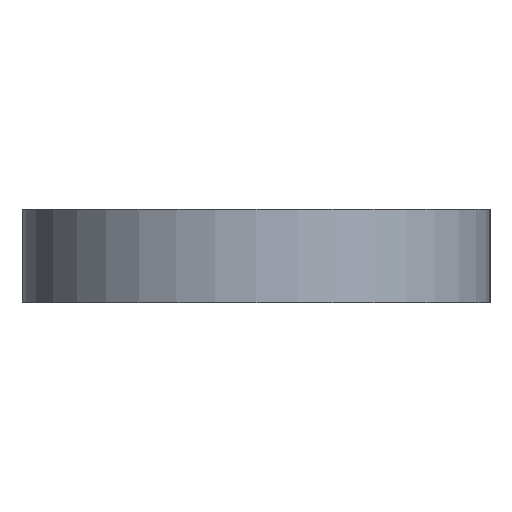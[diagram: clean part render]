
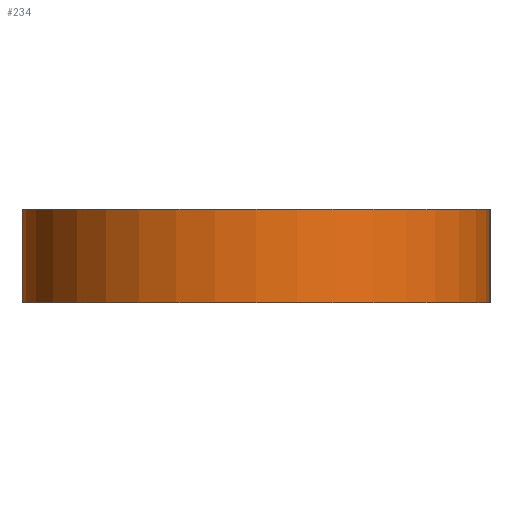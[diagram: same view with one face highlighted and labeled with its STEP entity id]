
A CAD part, front view. The second image highlights one B-rep face of the part: STEP entity #234.
In plain terms, the highlighted cylindrical face has radius 7.5 mm (diameter 15 mm), a partial arc.
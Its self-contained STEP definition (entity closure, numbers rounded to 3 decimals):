
#55 = PLANE('',#56);
#56 = AXIS2_PLACEMENT_3D('',#57,#58,#59);
#57 = CARTESIAN_POINT('',(0.,0.,0.));
#58 = DIRECTION('',(1.,0.,-0.));
#59 = DIRECTION('',(0.,-1.,0.));
#84 = PLANE('',#85);
#85 = AXIS2_PLACEMENT_3D('',#86,#87,#88);
#86 = CARTESIAN_POINT('',(0.,0.,3.));
#87 = DIRECTION('',(0.,0.,-1.));
#88 = DIRECTION('',(-1.,0.,0.));
#116 = PLANE('',#117);
#117 = AXIS2_PLACEMENT_3D('',#118,#119,#120);
#118 = CARTESIAN_POINT('',(-15.,0.,0.));
#119 = DIRECTION('',(1.,0.,-0.));
#120 = DIRECTION('',(0.,-1.,0.));
#143 = PLANE('',#144);
#144 = AXIS2_PLACEMENT_3D('',#145,#146,#147);
#145 = CARTESIAN_POINT('',(0.,0.,0.));
#146 = DIRECTION('',(0.,0.,-1.));
#147 = DIRECTION('',(-1.,0.,0.));
#164 = VERTEX_POINT('',#165);
#165 = CARTESIAN_POINT('',(-15.,-105.,3.));
#186 = EDGE_CURVE('',#187,#164,#189,.T.);
#187 = VERTEX_POINT('',#188);
#188 = CARTESIAN_POINT('',(-15.,-105.,0.));
#189 = SURFACE_CURVE('',#190,(#194,#201),.PCURVE_S1.);
#190 = LINE('',#191,#192);
#191 = CARTESIAN_POINT('',(-15.,-105.,0.));
#192 = VECTOR('',#193,1.);
#193 = DIRECTION('',(0.,0.,1.));
#194 = PCURVE('',#116,#195);
#195 = DEFINITIONAL_REPRESENTATION('',(#196),#200);
#196 = LINE('',#197,#198);
#197 = CARTESIAN_POINT('',(105.,0.));
#198 = VECTOR('',#199,1.);
#199 = DIRECTION('',(0.,-1.));
#200 = ( GEOMETRIC_REPRESENTATION_CONTEXT(2) 
PARAMETRIC_REPRESENTATION_CONTEXT() REPRESENTATION_CONTEXT('2D SPACE',''
  ) );
#201 = PCURVE('',#202,#207);
#202 = CYLINDRICAL_SURFACE('',#203,7.5);
#203 = AXIS2_PLACEMENT_3D('',#204,#205,#206);
#204 = CARTESIAN_POINT('',(-7.5,-105.,0.));
#205 = DIRECTION('',(-0.,-0.,-1.));
#206 = DIRECTION('',(1.,0.,0.));
#207 = DEFINITIONAL_REPRESENTATION('',(#208),#212);
#208 = LINE('',#209,#210);
#209 = CARTESIAN_POINT('',(-3.142,0.));
#210 = VECTOR('',#211,1.);
#211 = DIRECTION('',(-0.,-1.));
#212 = ( GEOMETRIC_REPRESENTATION_CONTEXT(2) 
PARAMETRIC_REPRESENTATION_CONTEXT() REPRESENTATION_CONTEXT('2D SPACE',''
  ) );
#234 = ADVANCED_FACE('',(#235),#202,.T.);
#235 = FACE_BOUND('',#236,.F.);
#236 = EDGE_LOOP('',(#237,#238,#266,#289));
#237 = ORIENTED_EDGE('',*,*,#186,.T.);
#238 = ORIENTED_EDGE('',*,*,#239,.T.);
#239 = EDGE_CURVE('',#164,#240,#242,.T.);
#240 = VERTEX_POINT('',#241);
#241 = CARTESIAN_POINT('',(0.,-105.,3.));
#242 = SURFACE_CURVE('',#243,(#248,#255),.PCURVE_S1.);
#243 = CIRCLE('',#244,7.5);
#244 = AXIS2_PLACEMENT_3D('',#245,#246,#247);
#245 = CARTESIAN_POINT('',(-7.5,-105.,3.));
#246 = DIRECTION('',(0.,0.,1.));
#247 = DIRECTION('',(1.,0.,0.));
#248 = PCURVE('',#202,#249);
#249 = DEFINITIONAL_REPRESENTATION('',(#250),#254);
#250 = LINE('',#251,#252);
#251 = CARTESIAN_POINT('',(-0.,-3.));
#252 = VECTOR('',#253,1.);
#253 = DIRECTION('',(-1.,0.));
#254 = ( GEOMETRIC_REPRESENTATION_CONTEXT(2) 
PARAMETRIC_REPRESENTATION_CONTEXT() REPRESENTATION_CONTEXT('2D SPACE',''
  ) );
#255 = PCURVE('',#84,#256);
#256 = DEFINITIONAL_REPRESENTATION('',(#257),#265);
#257 = ( BOUNDED_CURVE() B_SPLINE_CURVE(2,(#258,#259,#260,#261,#262,#263
,#264),.UNSPECIFIED.,.F.,.F.) B_SPLINE_CURVE_WITH_KNOTS((1,2,2,2,2,1),(
    -2.094,0.,2.094,4.189,6.283,
8.378),.UNSPECIFIED.) CURVE() GEOMETRIC_REPRESENTATION_ITEM() 
RATIONAL_B_SPLINE_CURVE((1.,0.5,1.,0.5,1.,0.5,1.)) REPRESENTATION_ITEM(
  '') );
#258 = CARTESIAN_POINT('',(0.,-105.));
#259 = CARTESIAN_POINT('',(0.,-92.01));
#260 = CARTESIAN_POINT('',(11.25,-98.505));
#261 = CARTESIAN_POINT('',(22.5,-105.));
#262 = CARTESIAN_POINT('',(11.25,-111.495));
#263 = CARTESIAN_POINT('',(0.,-117.99));
#264 = CARTESIAN_POINT('',(0.,-105.));
#265 = ( GEOMETRIC_REPRESENTATION_CONTEXT(2) 
PARAMETRIC_REPRESENTATION_CONTEXT() REPRESENTATION_CONTEXT('2D SPACE',''
  ) );
#266 = ORIENTED_EDGE('',*,*,#267,.F.);
#267 = EDGE_CURVE('',#268,#240,#270,.T.);
#268 = VERTEX_POINT('',#269);
#269 = CARTESIAN_POINT('',(0.,-105.,0.));
#270 = SURFACE_CURVE('',#271,(#275,#282),.PCURVE_S1.);
#271 = LINE('',#272,#273);
#272 = CARTESIAN_POINT('',(0.,-105.,0.));
#273 = VECTOR('',#274,1.);
#274 = DIRECTION('',(0.,0.,1.));
#275 = PCURVE('',#202,#276);
#276 = DEFINITIONAL_REPRESENTATION('',(#277),#281);
#277 = LINE('',#278,#279);
#278 = CARTESIAN_POINT('',(-6.283,0.));
#279 = VECTOR('',#280,1.);
#280 = DIRECTION('',(-0.,-1.));
#281 = ( GEOMETRIC_REPRESENTATION_CONTEXT(2) 
PARAMETRIC_REPRESENTATION_CONTEXT() REPRESENTATION_CONTEXT('2D SPACE',''
  ) );
#282 = PCURVE('',#55,#283);
#283 = DEFINITIONAL_REPRESENTATION('',(#284),#288);
#284 = LINE('',#285,#286);
#285 = CARTESIAN_POINT('',(105.,0.));
#286 = VECTOR('',#287,1.);
#287 = DIRECTION('',(0.,-1.));
#288 = ( GEOMETRIC_REPRESENTATION_CONTEXT(2) 
PARAMETRIC_REPRESENTATION_CONTEXT() REPRESENTATION_CONTEXT('2D SPACE',''
  ) );
#289 = ORIENTED_EDGE('',*,*,#290,.F.);
#290 = EDGE_CURVE('',#187,#268,#291,.T.);
#291 = SURFACE_CURVE('',#292,(#297,#304),.PCURVE_S1.);
#292 = CIRCLE('',#293,7.5);
#293 = AXIS2_PLACEMENT_3D('',#294,#295,#296);
#294 = CARTESIAN_POINT('',(-7.5,-105.,0.));
#295 = DIRECTION('',(0.,0.,1.));
#296 = DIRECTION('',(1.,0.,0.));
#297 = PCURVE('',#202,#298);
#298 = DEFINITIONAL_REPRESENTATION('',(#299),#303);
#299 = LINE('',#300,#301);
#300 = CARTESIAN_POINT('',(-0.,0.));
#301 = VECTOR('',#302,1.);
#302 = DIRECTION('',(-1.,0.));
#303 = ( GEOMETRIC_REPRESENTATION_CONTEXT(2) 
PARAMETRIC_REPRESENTATION_CONTEXT() REPRESENTATION_CONTEXT('2D SPACE',''
  ) );
#304 = PCURVE('',#143,#305);
#305 = DEFINITIONAL_REPRESENTATION('',(#306),#314);
#306 = ( BOUNDED_CURVE() B_SPLINE_CURVE(2,(#307,#308,#309,#310,#311,#312
,#313),.UNSPECIFIED.,.F.,.F.) B_SPLINE_CURVE_WITH_KNOTS((1,2,2,2,2,1),(
    -2.094,0.,2.094,4.189,6.283,
8.378),.UNSPECIFIED.) CURVE() GEOMETRIC_REPRESENTATION_ITEM() 
RATIONAL_B_SPLINE_CURVE((1.,0.5,1.,0.5,1.,0.5,1.)) REPRESENTATION_ITEM(
  '') );
#307 = CARTESIAN_POINT('',(0.,-105.));
#308 = CARTESIAN_POINT('',(0.,-92.01));
#309 = CARTESIAN_POINT('',(11.25,-98.505));
#310 = CARTESIAN_POINT('',(22.5,-105.));
#311 = CARTESIAN_POINT('',(11.25,-111.495));
#312 = CARTESIAN_POINT('',(0.,-117.99));
#313 = CARTESIAN_POINT('',(0.,-105.));
#314 = ( GEOMETRIC_REPRESENTATION_CONTEXT(2) 
PARAMETRIC_REPRESENTATION_CONTEXT() REPRESENTATION_CONTEXT('2D SPACE',''
  ) );
